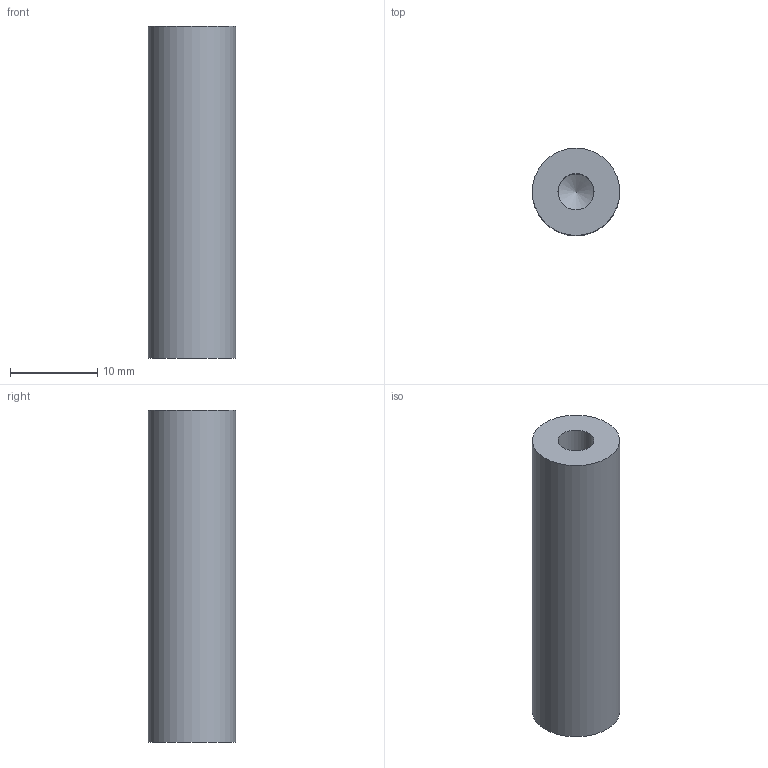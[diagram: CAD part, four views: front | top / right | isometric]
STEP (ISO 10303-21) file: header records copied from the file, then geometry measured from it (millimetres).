
FILE_DESCRIPTION( ( 'Unknown' ), '1' );
FILE_NAME( 'F:/navkite transat/construction/2016/3D ET ASSEMBLAGES/desal/DES 22.stp', 'Unknown', ( 'GMA' ), ( 'Unknown' ), 'XStep 1.0', 'Unknown', ' ' );
FILE_SCHEMA( ( 'automotive_design' ) );
Length unit declared in the file: millimetre
Products named in the file (1): 1
Bounding box: 10 x 10 x 38 mm (x, y, z)
Volume: 2643.4 mm3; surface area: 1677.8 mm2
Topology: 1 solids, 1 shells, 5 faces, 9 edges, 6 vertices
Faces by surface type: cylinder 2, plane 2, cone 1
Full cylindrical faces by diameter (mm): 4.134 x1, 10 x1
Entity records: 154 total; most frequent: DIRECTION 20, CARTESIAN_POINT 15, AXIS2_PLACEMENT_3D 10, EDGE_LOOP 8, ORIENTED_EDGE 8, FACE_OUTER_BOUND 7, STYLED_ITEM 5, PRESENTATION_STYLE_ASSIGNMENT 5
